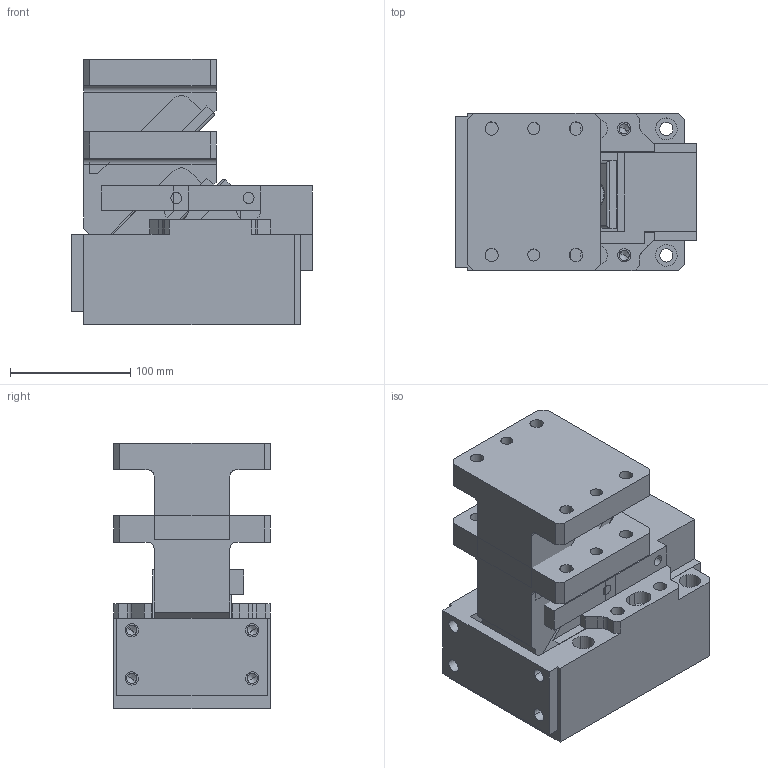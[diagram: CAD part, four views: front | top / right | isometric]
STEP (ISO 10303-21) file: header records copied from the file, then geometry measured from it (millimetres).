
FILE_DESCRIPTION(('CATIA V5 STEP','CAx-IF Rec.Pracs.--- Model Styling and Organization---1.4--- 2014-01-23','CAx-IF Rec.Pracs.---3D Tessellated Data Validation Properties---0.5---2014-09-14'),'2;1');
FILE_NAME('H:\_COMPRESS_2\2016.14.00.065.060.1.2__CM.stp','2020-11-18T12:47:32+00:00',('${USER}'),('AUDI AG, ${GROUP}'),'CATIA Version 5-6 Release 2018 SP3 HF27','CATIA V5 STEP AP242','none');
FILE_SCHEMA(('AP242_MANAGED_MODEL_BASED_3D_ENGINEERING_MIM_LF {1 0 10303 442 1 1 4}'));
Length unit declared in the file: millimetre
Products named in the file (1): 2016.14.00.065.060.1.2__CM
Bounding box: 200 x 130 x 220 mm (x, y, z)
Volume: 3862730.4 mm3; surface area: 435650.6 mm2
Topology: 4 solids, 4 shells, 561 faces, 1420 edges, 896 vertices
Faces by surface type: plane 280, cylinder 227, cone 32, torus 16, sphere 4, bspline 2
Entity records: 15932 total; most frequent: CARTESIAN_POINT 3184, ORIENTED_EDGE 2778, DIRECTION 2173, EDGE_CURVE 1389, VECTOR 895, LINE 895, VERTEX_POINT 892, AXIS2_PLACEMENT_3D 862
